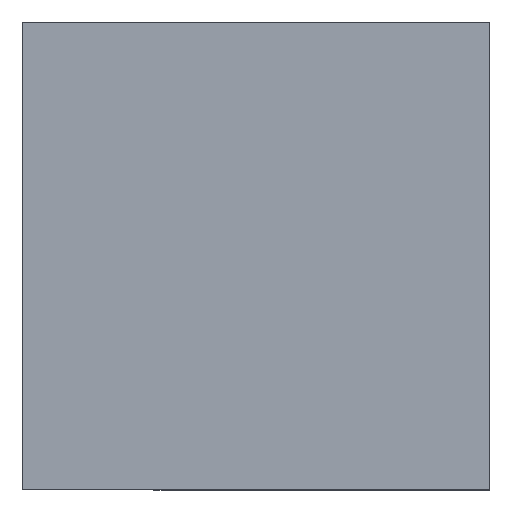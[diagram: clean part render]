
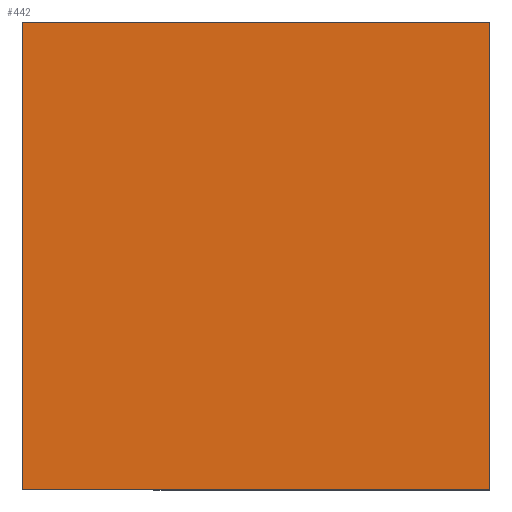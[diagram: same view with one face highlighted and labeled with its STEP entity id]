
A CAD part, top view. The second image highlights one B-rep face of the part: STEP entity #442.
In plain terms, the highlighted planar face has unit normal (0, 0, 1).
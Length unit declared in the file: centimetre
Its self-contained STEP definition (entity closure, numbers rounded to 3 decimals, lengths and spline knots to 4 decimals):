
#15 = EDGE_CURVE ( 'NONE', #131, #153, #423, .T. ) ;
#26 = PLANE ( 'NONE',  #144 ) ;
#37 = DIRECTION ( 'NONE',  ( -1., 0., 0. ) ) ;
#65 = FACE_OUTER_BOUND ( 'NONE', #212, .T. ) ;
#72 = CARTESIAN_POINT ( 'NONE',  ( 0., 0., 1000. ) ) ;
#79 = CARTESIAN_POINT ( 'NONE',  ( 0., 1000., 1000. ) ) ;
#80 = CARTESIAN_POINT ( 'NONE',  ( 1000., 0., 1000. ) ) ;
#102 = VECTOR ( 'NONE', #415, 100. ) ;
#109 = EDGE_CURVE ( 'NONE', #114, #282, #265, .T. ) ;
#114 = VERTEX_POINT ( 'NONE', #72 ) ;
#131 = VERTEX_POINT ( 'NONE', #300 ) ;
#136 = ORIENTED_EDGE ( 'NONE', *, *, #109, .T. ) ;
#144 = AXIS2_PLACEMENT_3D ( 'NONE', #219, #173, #403 ) ;
#153 = VERTEX_POINT ( 'NONE', #225 ) ;
#173 = DIRECTION ( 'NONE',  ( 0., 0., 1. ) ) ;
#201 = ORIENTED_EDGE ( 'NONE', *, *, #436, .T. ) ;
#212 = EDGE_LOOP ( 'NONE', ( #201, #136, #308, #313 ) ) ;
#219 = CARTESIAN_POINT ( 'NONE',  ( 0., 0., 1000. ) ) ;
#221 = LINE ( 'NONE', #376, #238 ) ;
#225 = CARTESIAN_POINT ( 'NONE',  ( 0., 1000., 1000. ) ) ;
#238 = VECTOR ( 'NONE', #375, 100. ) ;
#248 = VECTOR ( 'NONE', #37, 100. ) ;
#265 = LINE ( 'NONE', #337, #102 ) ;
#282 = VERTEX_POINT ( 'NONE', #80 ) ;
#300 = CARTESIAN_POINT ( 'NONE',  ( 1000., 1000., 1000. ) ) ;
#308 = ORIENTED_EDGE ( 'NONE', *, *, #422, .T. ) ;
#313 = ORIENTED_EDGE ( 'NONE', *, *, #15, .T. ) ;
#337 = CARTESIAN_POINT ( 'NONE',  ( 0., 0., 1000. ) ) ;
#363 = VECTOR ( 'NONE', #373, 100. ) ;
#373 = DIRECTION ( 'NONE',  ( 0., -1., 0. ) ) ;
#375 = DIRECTION ( 'NONE',  ( 0., 1., 0. ) ) ;
#376 = CARTESIAN_POINT ( 'NONE',  ( 1000., 1000., 1000. ) ) ;
#403 = DIRECTION ( 'NONE',  ( 1., 0., 0. ) ) ;
#415 = DIRECTION ( 'NONE',  ( 1., 0., 0. ) ) ;
#422 = EDGE_CURVE ( 'NONE', #282, #131, #221, .T. ) ;
#423 = LINE ( 'NONE', #79, #248 ) ;
#436 = EDGE_CURVE ( 'NONE', #153, #114, #487, .T. ) ;
#442 = ADVANCED_FACE ( 'NONE', ( #65 ), #26, .T. ) ;
#451 = CARTESIAN_POINT ( 'NONE',  ( 0., 1000., 1000. ) ) ;
#487 = LINE ( 'NONE', #451, #363 ) ;
